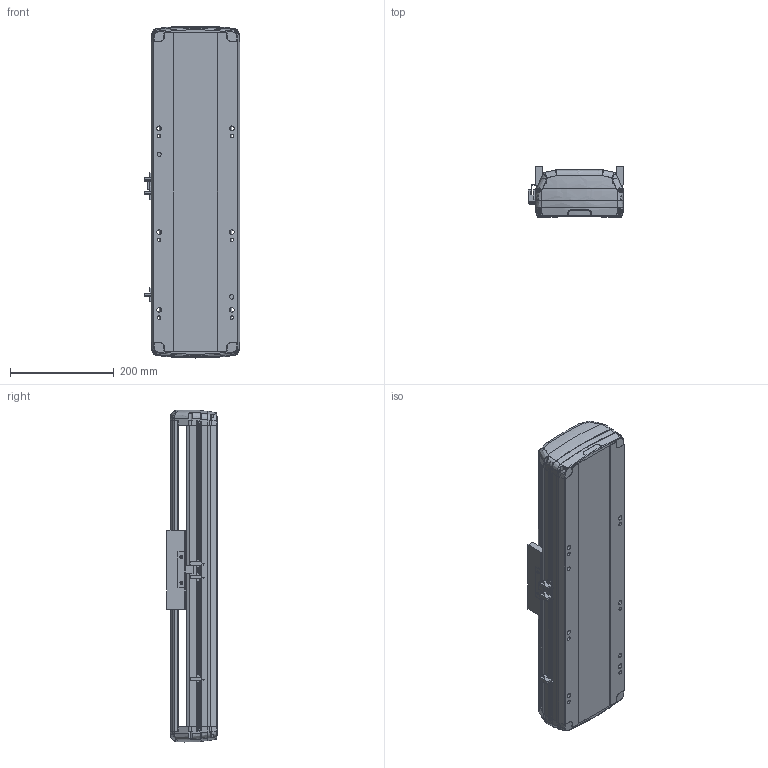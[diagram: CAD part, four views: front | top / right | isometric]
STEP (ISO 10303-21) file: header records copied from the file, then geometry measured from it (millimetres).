
FILE_DESCRIPTION (( 'STEP AP214' ), '1' );
FILE_NAME ('RTH17-XX-200-B-M40B-C4.STEP', '2025-10-24T09:13:09', ( '' ), ( '' ), 'SwSTEP 2.0', 'SolidWorks 2018', '' );
FILE_SCHEMA (( 'AUTOMOTIVE_DESIGN' ));
Length unit declared in the file: millimetre
Products named in the file (7): N_RTH17-M-007B上盖^RTH17-XX-XX-B-M40B-C4（方程式）; N_RTH17-E-004丝杆螺母连接座^RTH17-XX-XX-B-M40B-C4（方程式）; N_OMRON EE-SX672 換覜ん^RTH17-XX-XX-B-M40B-C4ㄗ源最宒ㄘ; N_RTH17-M-011B底座^RTH17-XX-XX-B-M40B-C4（方程式）; N_RTH17-GY-001P^RTH17-XX-XX-B-M40B-C4（方程式）; N_RTH-L-012 感应片(外置)^RTH17-XX-XX-B-M40B-C4（方程式）; RTH17-XX-200-B-M40B-C4
Assembly tree (9 placements, depth 2):
  RTH17-XX-200-B-M40B-C4
    N_RTH17-M-011B底座^RTH17-XX-XX-B-M40B-C4（方程式）
    N_RTH17-M-007B上盖^RTH17-XX-XX-B-M40B-C4（方程式）
    N_OMRON EE-SX672 換覜ん^RTH17-XX-XX-B-M40B-C4ㄗ源最宒ㄘ  x3
    N_RTH-L-012 感应片(外置)^RTH17-XX-XX-B-M40B-C4（方程式）
    N_RTH17-E-004丝杆螺母连接座^RTH17-XX-XX-B-M40B-C4（方程式）
    N_RTH17-GY-001P^RTH17-XX-XX-B-M40B-C4（方程式）  x2
Bounding box: 183.5 x 97 x 640.04 mm (x, y, z)
Volume: 4928343.6 mm3; surface area: 738237.2 mm2
Topology: 7 solids, 11 shells, 1688 faces, 4718 edges, 3062 vertices
Faces by surface type: plane 805, bspline 420, cylinder 417, cone 28, torus 18
Entity records: 38742 total; most frequent: CARTESIAN_POINT 16281, ORIENTED_EDGE 4940, DIRECTION 3886, EDGE_CURVE 2474, VERTEX_POINT 1616, LINE 1382, VECTOR 1382, AXIS2_PLACEMENT_3D 1252
